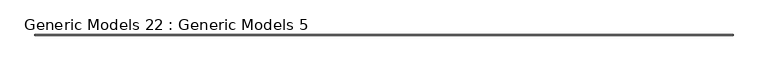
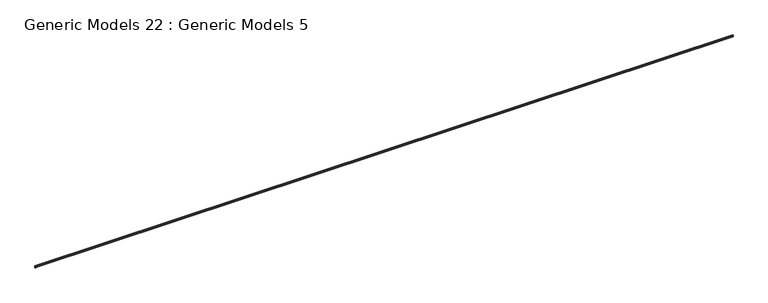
"""IFC4 building model written with IfcOpenShell, lengths in millimetres: proxy geometry, Generic Models 22 : Generic Models 5."""

from ifc_helpers import new_model, si_unit, frame, origin, place, context, project, spatial, polyline, outline, extrude, source, transform, mapped, element, save


def generic_models_22_generic_models_5_a0ad3e2a(model_context):
    return source(origin(), model_context, "Body", "SweptSolid", [
        extrude(outline(polyline([(-33899.3965054, 48134.8639739), (-33889.3965054, 48134.8639739), (-33889.3965054, 48090.6048245), (-33824.3965054, 48090.6048245), (-33824.3965054, 48285.6048245), (-33889.3965054, 48285.6048245), (-33889.3965054, 48250.6048245), (-33899.3965054, 48250.6048245), (-33899.3965054, 48300.3515496), (-33815.5177886, 48300.3515496), (-33815.5177886, 48080.3515496), (-33899.3965054, 48080.3515496), (-33899.3965054, 48134.8639739)])), frame((-135300.5917799, 0.0, 0.0), z_axis=(1.0, 0.0, 0.0), x_axis=(0.0, 1.0, 0.0)), (0.0, 0.0, 1.0), 90401.5494501),
    ])


if __name__ == "__main__":
    model = new_model("IFC4")
    model_context = context("Model", 3, world=origin())
    ifc_project = project(units=[si_unit("LENGTHUNIT", "METRE", prefix="MILLI")], contexts=[model_context])
    site = spatial("IfcSite", under=ifc_project)
    building = spatial("IfcBuilding", under=site)
    placement = place(None, origin())
    generic_models_22_generic_models_5_shape = generic_models_22_generic_models_5_a0ad3e2a(model_context)
    element("IfcBuildingElementProxy", 1, Name="Generic Models 22 : Generic Models 5", ObjectType="Generic Models 22 : Generic Models 5", at=placement, inside=building, context=model_context, shape_type="MappedRepresentation", body=[
        mapped(generic_models_22_generic_models_5_shape, transform((0.0, 0.0, 0.0), x_axis=(1.0, 0.0, 0.0), y_axis=(0.0, 1.0, 0.0), z_axis=(0.0, 0.0, 1.0))),
    ])
    save(model, "model.ifc")
